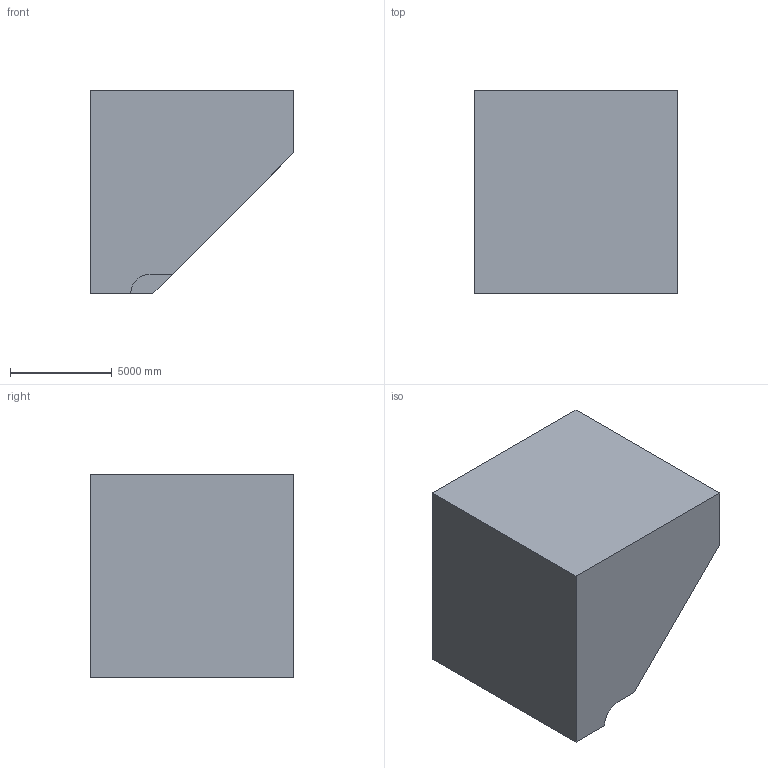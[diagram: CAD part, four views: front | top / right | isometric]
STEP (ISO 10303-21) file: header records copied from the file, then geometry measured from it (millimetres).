
FILE_DESCRIPTION (( 'STEP AP203' ), '1' );
FILE_NAME ('1075.STEP', '2022-08-25T14:40:47', ( 'user' ), ( '' ), 'SwSTEP 2.0', 'SolidWorks 2021', '' );
FILE_SCHEMA (( 'CONFIG_CONTROL_DESIGN' ));
Length unit declared in the file: centimetre
Products named in the file (1): 1075
Bounding box: 10000 x 10000 x 10000 mm (x, y, z)
Volume: 757485910365.2 mm3; surface area: 511890107.7 mm2
Topology: 1 solids, 1 shells, 10 faces, 24 edges, 16 vertices
Faces by surface type: plane 9, cylinder 1
Entity records: 367 total; most frequent: CARTESIAN_POINT 51, DIRECTION 48, ORIENTED_EDGE 48, EDGE_CURVE 24, VECTOR 22, LINE 22, VERTEX_POINT 16, AXIS2_PLACEMENT_3D 13
